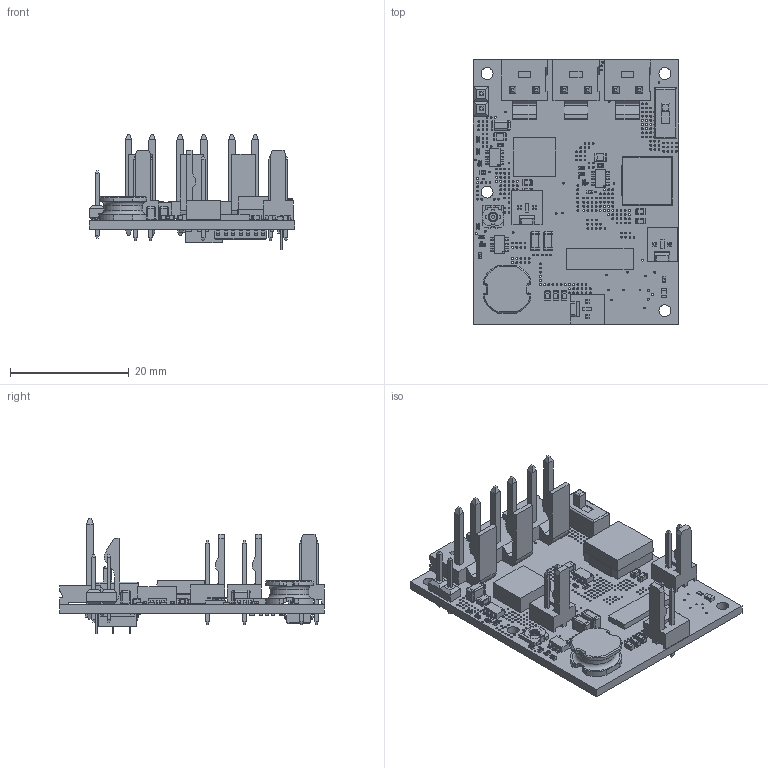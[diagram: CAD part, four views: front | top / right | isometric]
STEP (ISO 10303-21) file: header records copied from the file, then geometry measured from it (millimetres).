
FILE_DESCRIPTION(/* description */ (''),/* implementation_level */ '2;1');
FILE_NAME(/* name */ 'C:/Users/priba/Documents/Temp/mrm-ps3xc.step',/* time_stamp */ '2020-04-08T13:44:15+02:00',/* author */ (''),/* organization */ (''),/* preprocessor_version */ 'ST-DEVELOPER v18',/* originating_system */ 'Autodesk Translation Framework v8.12.0.6',/* authorisation */ '');
FILE_SCHEMA (('AUTOMOTIVE_DESIGN { 1 0 10303 214 3 1 1 }'));
Products named in the file (28): mrm-ps3xc; Packages; 1X02; BOURNS_SRN80408R2Y; C0402; C0603; C0805; C1206; Fillet1; Fillet2; body2; CHIPLED_0402; HDRV2W64P254_2X1_508X580H1118; INDPM8682X400N; Chamfer; FilletPin1; FilletPin2; LED_3X7_SEGMENT; MOLEX_KK396_2; PG-TO252-5-11; PMPB11EN; R0402; R0603; SOIC127P600X160-14N; SOT-23-6; SPM6530; SWITCH_SPDT_PTH_09.0X4.0MM; TRIMPOT-SMD-TC33X
Assembly tree (65 placements, depth 4):
  mrm-ps3xc
    Packages
      1X02
      BOURNS_SRN80408R2Y
      C0402  x5
      C0603  x8
      C0805  x2
      C1206  x3
        Fillet1
        Fillet2
        body2
      CHIPLED_0402
      HDRV2W64P254_2X1_508X580H1118  x3
      INDPM8682X400N
        Chamfer
        FilletPin1
        FilletPin2
      LED_3X7_SEGMENT
      MOLEX_KK396_2  x3
      PG-TO252-5-11
      PMPB11EN
      R0402  x18
      R0603  x2
      SOIC127P600X160-14N
      SOT-23-6  x3
      SPM6530
      SWITCH_SPDT_PTH_09.0X4.0MM
      TRIMPOT-SMD-TC33X
Bounding box: 34.6 x 44.63 x 19.42 mm (x, y, z)
Volume: 4326 mm3; surface area: 7986.9 mm2
Topology: 78 solids, 78 shells, 4453 faces, 12772 edges, 8447 vertices
Faces by surface type: plane 2312, cylinder 1631, sphere 456, bspline 32, torus 14, cone 8
Full cylindrical faces by diameter (mm): 0.3 x331, 0.6 x10, 0.635 x1, 1.016 x5, 1.05 x6, 1.5 x1, 1.6 x1, 1.65 x6, 2 x4, 6.5 x1
Entity records: 59325 total; most frequent: CARTESIAN_POINT 12420, DIRECTION 9293, ORIENTED_EDGE 9202, EDGE_CURVE 4601, AXIS2_PLACEMENT_3D 3244, VERTEX_POINT 2996, LINE 2805, VECTOR 2805
